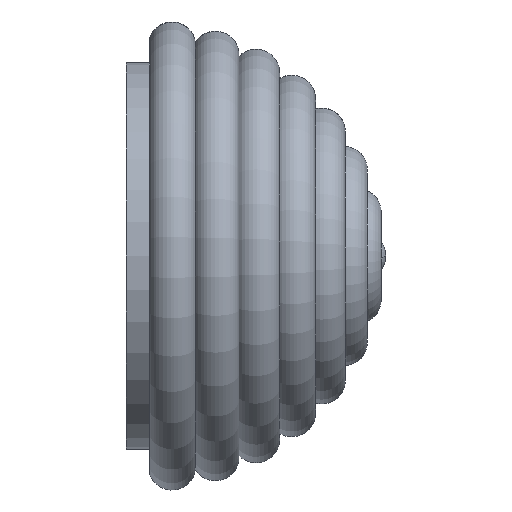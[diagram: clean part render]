
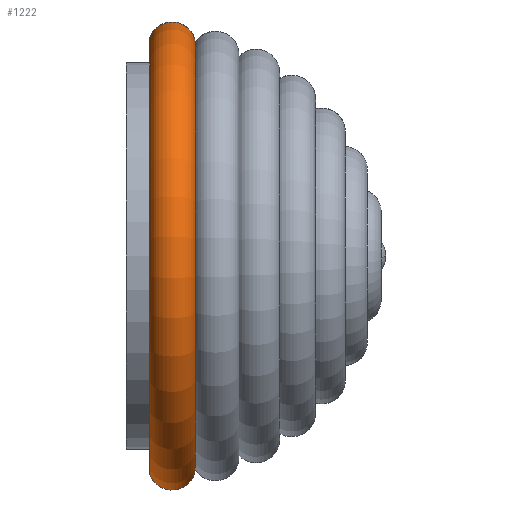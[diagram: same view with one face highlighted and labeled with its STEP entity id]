
A CAD part, left-side view. The second image highlights one B-rep face of the part: STEP entity #1222.
In plain terms, the highlighted toroidal (fillet/blend) face has major radius 44.754 mm and minor radius 5 mm.
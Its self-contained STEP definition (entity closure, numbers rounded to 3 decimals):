
#20 = EDGE_CURVE ( 'NONE', #98, #287, #249, .T. ) ;
#34 = CARTESIAN_POINT ( 'NONE',  ( 4.687, -17.458, 61.941 ) ) ;
#50 = CARTESIAN_POINT ( 'NONE',  ( 0.451, -17.458, 107.177 ) ) ;
#54 = DIRECTION ( 'NONE',  ( -0.093, 0., 0.996 ) ) ;
#98 = VERTEX_POINT ( 'NONE', #1110 ) ;
#123 = EDGE_CURVE ( 'NONE', #1246, #875, #476, .T. ) ;
#249 = CIRCLE ( 'NONE', #268, 46.449 ) ;
#262 = CARTESIAN_POINT ( 'NONE',  ( -3.879, -7.801, 153.424 ) ) ;
#268 = AXIS2_PLACEMENT_3D ( 'NONE', #821, #1030, #1212 ) ;
#281 = CARTESIAN_POINT ( 'NONE',  ( -3.785, -17.458, 152.413 ) ) ;
#287 = VERTEX_POINT ( 'NONE', #262 ) ;
#359 = ORIENTED_EDGE ( 'NONE', *, *, #389, .F. ) ;
#389 = EDGE_CURVE ( 'NONE', #1246, #98, #577, .T. ) ;
#450 = ORIENTED_EDGE ( 'NONE', *, *, #1259, .T. ) ;
#476 = CIRCLE ( 'NONE', #1224, 45.434 ) ;
#488 = CARTESIAN_POINT ( 'NONE',  ( 4.624, -12.505, 62.619 ) ) ;
#501 = EDGE_LOOP ( 'NONE', ( #359, #791, #450, #775 ) ) ;
#540 = CARTESIAN_POINT ( 'NONE',  ( -3.721, -12.505, 151.736 ) ) ;
#555 = TOROIDAL_SURFACE ( 'NONE', #660, 44.753, 5. ) ;
#577 = CIRCLE ( 'NONE', #1220, 5. ) ;
#660 = AXIS2_PLACEMENT_3D ( 'NONE', #1029, #1060, #938 ) ;
#761 = FACE_OUTER_BOUND ( 'NONE', #501, .T. ) ;
#775 = ORIENTED_EDGE ( 'NONE', *, *, #20, .F. ) ;
#791 = ORIENTED_EDGE ( 'NONE', *, *, #123, .T. ) ;
#821 = CARTESIAN_POINT ( 'NONE',  ( 0.451, -7.801, 107.177 ) ) ;
#833 = CIRCLE ( 'NONE', #1169, 5. ) ;
#875 = VERTEX_POINT ( 'NONE', #281 ) ;
#935 = DIRECTION ( 'NONE',  ( 0., 1., 0. ) ) ;
#938 = DIRECTION ( 'NONE',  ( -0.093, 0., 0.996 ) ) ;
#945 = DIRECTION ( 'NONE',  ( -0.093, 0., 0.996 ) ) ;
#953 = DIRECTION ( 'NONE',  ( -0.996, 0., -0.093 ) ) ;
#1029 = CARTESIAN_POINT ( 'NONE',  ( 0.451, -12.505, 107.177 ) ) ;
#1030 = DIRECTION ( 'NONE',  ( 0., 1., 0. ) ) ;
#1060 = DIRECTION ( 'NONE',  ( 0., 1., 0. ) ) ;
#1110 = CARTESIAN_POINT ( 'NONE',  ( 4.782, -7.801, 60.931 ) ) ;
#1169 = AXIS2_PLACEMENT_3D ( 'NONE', #540, #953, #54 ) ;
#1212 = DIRECTION ( 'NONE',  ( 0.093, 0., -0.996 ) ) ;
#1220 = AXIS2_PLACEMENT_3D ( 'NONE', #488, #1280, #1271 ) ;
#1222 = ADVANCED_FACE ( 'NONE', ( #761 ), #555, .T. ) ;
#1224 = AXIS2_PLACEMENT_3D ( 'NONE', #50, #935, #945 ) ;
#1246 = VERTEX_POINT ( 'NONE', #34 ) ;
#1259 = EDGE_CURVE ( 'NONE', #875, #287, #833, .T. ) ;
#1271 = DIRECTION ( 'NONE',  ( 0.093, 0., -0.996 ) ) ;
#1280 = DIRECTION ( 'NONE',  ( 0.996, 0., 0.093 ) ) ;
